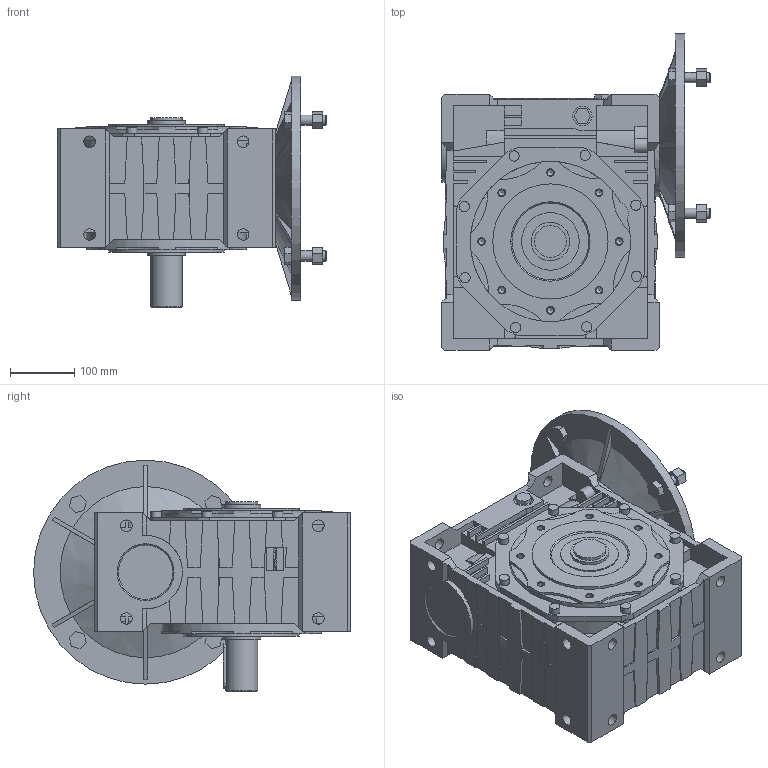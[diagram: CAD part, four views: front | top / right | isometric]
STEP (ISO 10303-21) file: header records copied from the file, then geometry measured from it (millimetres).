
FILE_DESCRIPTION(/* description */ ('STEP AP203'),/* implementation_level */ '2;1');
FILE_NAME(/* name */ 'NMRV1501555011112300NO---_---------------',/* time_stamp */ '2025-12-03T08:43:14+01:00',/* author */ ('License CC BY-ND 4.0'),/* organization */ ('CADENAS'),/* preprocessor_version */ 'ST-DEVELOPER v20',/* originating_system */ 'PARTsolutions',/* authorisation */ ' ');
FILE_SCHEMA (('CONFIG_CONTROL_DESIGN'));
Length unit declared in the file: millimetre
Products named in the file (6): NMRV1501555011112300NO---(---------------); Gear unit 150; 150-50 (200)alc-n; AL 150-50(1-2); VB 150-42 (42); 150-160 B5
Assembly tree (5 placements, depth 2):
  NMRV1501555011112300NO---(---------------)
    Gear unit 150
    150-50 (200)alc-n
    AL 150-50(1-2)
    VB 150-42 (42)
    150-160 B5
Bounding box: 420 x 495 x 362 mm (x, y, z)
Volume: 22728465.9 mm3; surface area: 1264538 mm2
Topology: 5 solids, 5 shells, 868 faces, 2310 edges, 1521 vertices
Faces by surface type: plane 646, cylinder 161, cone 59, torus 2
Full cylindrical faces by diameter (mm): 3.74 x3, 10.106 x16, 13.835 x1, 16 x16, 17 x1, 18 x18, 26 x1, 30 x4, 50 x3, 59 x1, 60 x3, 75 x1, 80 x1, 81 x1, 90 x2, 100 x1, 180 x2, 244 x1, 250 x2, 350 x1
Entity records: 26158 total; most frequent: CARTESIAN_POINT 4672, DIRECTION 4342, ORIENTED_EDGE 4294, EDGE_CURVE 2147, LINE 1612, VECTOR 1612, VERTEX_POINT 1503, AXIS2_PLACEMENT_3D 1365
